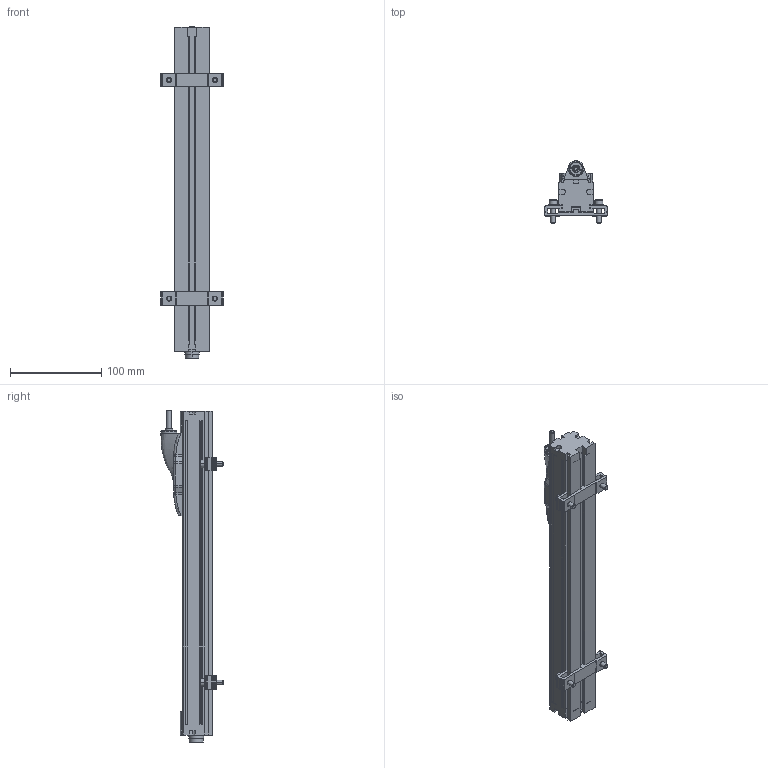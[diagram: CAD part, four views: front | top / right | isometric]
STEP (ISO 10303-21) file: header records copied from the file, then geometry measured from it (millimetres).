
FILE_DESCRIPTION(('STEP AP214'),'1');
FILE_NAME('burster_8718-200_98w6vsrlvj3ymzviv05jjk931.stp','2017-04-18T16:20:39',('TraceParts'),('TraceParts S.A.'),'Spatial InterOp 3D',' ',' ');
FILE_SCHEMA(('automotive_design'));
Length unit declared in the file: millimetre
Products named in the file (1): burster_8718-200_98w6vsrlvj3ymzviv05jjk931
Bounding box: 68 x 67.8 x 363 mm (x, y, z)
Volume: 450653.1 mm3; surface area: 93721.5 mm2
Topology: 1 solids, 2 shells, 621 faces, 1753 edges, 1124 vertices
Faces by surface type: plane 330, cylinder 203, cone 32, torus 28, bspline 18, sphere 10
Entity records: 26926 total; most frequent: CARTESIAN_POINT 5684, ORIENTED_EDGE 3450, DIRECTION 3412, EDGE_CURVE 1725, AXIS2_PLACEMENT_3D 1156, VERTEX_POINT 1124, LINE 1100, VECTOR 1100
